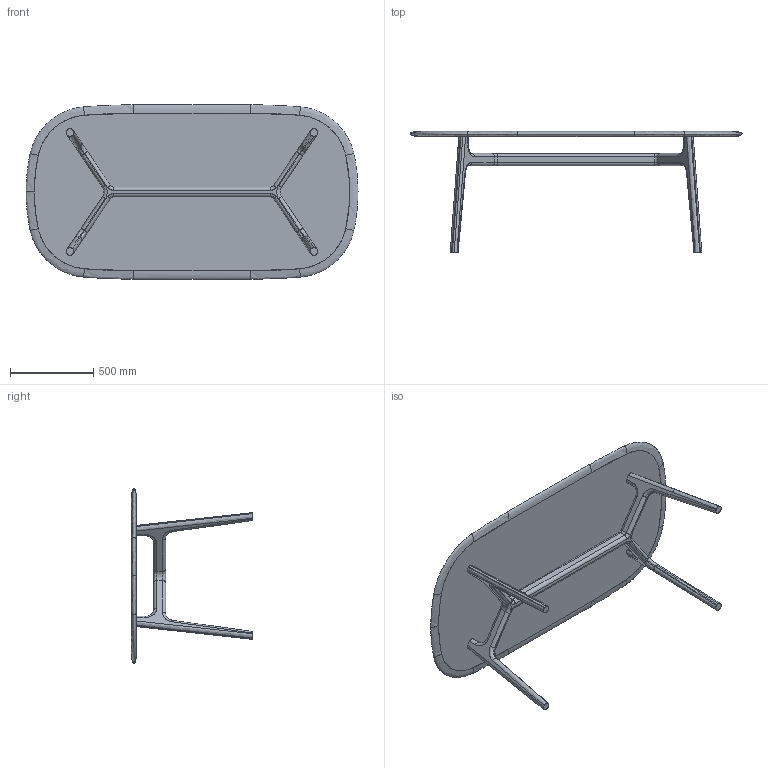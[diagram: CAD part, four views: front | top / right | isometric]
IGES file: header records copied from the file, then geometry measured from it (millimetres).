
Start section: SolidWorks IGES file using analytic representation for surfaces
Global section: file name: C:\Users\Kuma\Desktop\tEMP\3d files retail\783S Solo Oblong Table.IGS; native system: SolidWorks 2016; preprocessor: SolidWorks 2016; author: kuma; date: 170620.124615; units: millimetre
Bounding box: 2000 x 730 x 1050 mm (x, y, z)
Surface area: 4892886.8 mm2 (no closed solid volume)
Topology: 0 solids, 0 shells, 135 faces, 1706 edges, 1706 vertices
Faces by surface type: bspline 71, revolution 64
